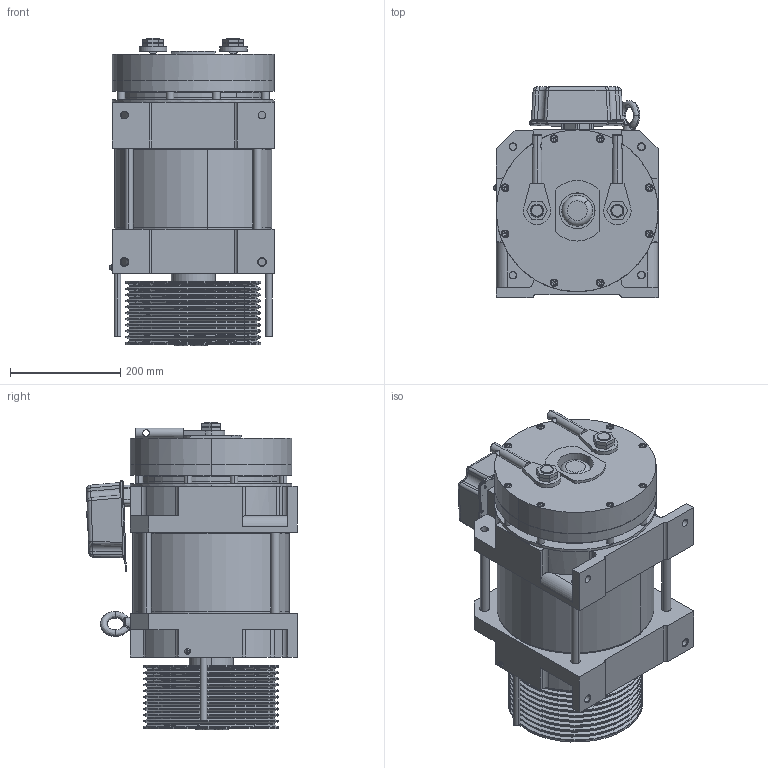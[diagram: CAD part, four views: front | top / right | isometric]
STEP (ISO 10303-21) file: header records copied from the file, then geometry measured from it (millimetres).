
FILE_DESCRIPTION (( 'STEP AP214' ), '1' );
FILE_NAME ('CSAG-E240.1000 KG .STEP', '2024-05-14T06:04:09', ( '' ), ( '' ), 'SwSTEP 2.0', 'SolidWorks 2021', '' );
FILE_SCHEMA (( 'AUTOMOTIVE_DESIGN' ));
Length unit declared in the file: millimetre
Products named in the file (1): CSAG-E240.1000 KG 
Bounding box: 298.3 x 383.15 x 559.5 mm (x, y, z)
Volume: 20753499.9 mm3; surface area: 2591601.8 mm2
Topology: 36 solids, 39 shells, 1789 faces, 4326 edges, 2691 vertices
Faces by surface type: cylinder 726, plane 685, torus 165, cone 162, bspline 49, sphere 2
Entity records: 80415 total; most frequent: CARTESIAN_POINT 17633, DIRECTION 9416, ORIENTED_EDGE 8556, EDGE_CURVE 4278, AXIS2_PLACEMENT_3D 3675, VERTEX_POINT 2691, EDGE_LOOP 2109, LINE 2066
